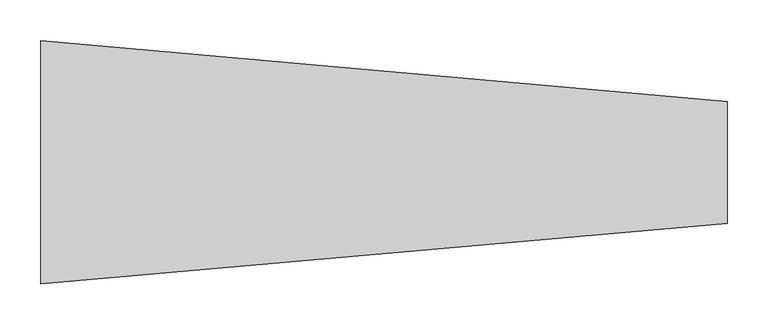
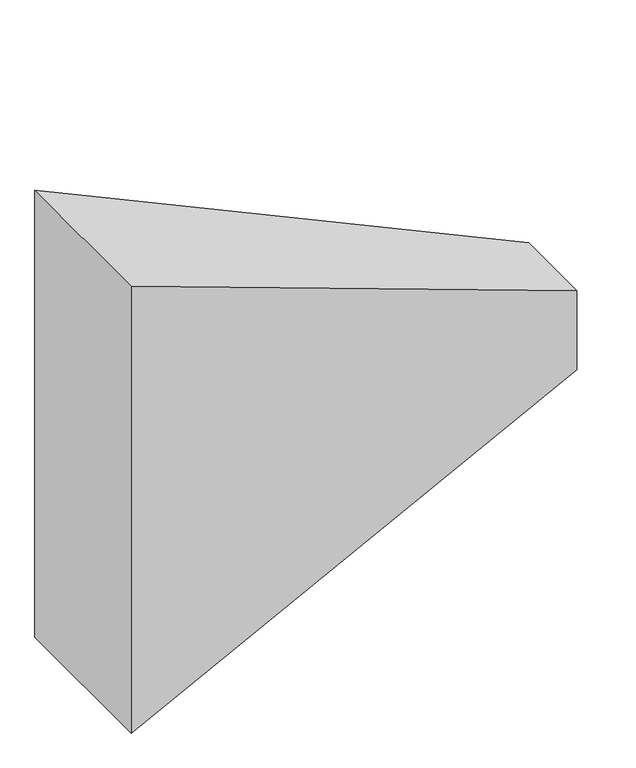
"""IFC4 building model written with IfcOpenShell, lengths in millimetres: duct fitting geometry, M_Transición rectangular - Ángulo : APT_45 graus."""

from ifc_helpers import new_model, si_unit, origin, place, context, project, spatial, faceted_brep, source, transform, mapped, element, save


def duct_fitting_92a4cfa6(model_context):
    return source(origin(), model_context, "Body", "Brep", [
        faceted_brep([(844.9747468, -75.0, 75.0), (844.9747468, -75.0, -75.0), (844.9747468, 75.0, -75.0), (844.9747468, 75.0, 75.0), (0.0, -150.0, 425.0), (0.0, 150.0, 425.0), (0.0, 150.0, -425.0), (0.0, -150.0, -425.0)], [[[0, 1, 2, 3]], [[4, 5, 6, 7]], [[4, 7, 1, 0]], [[7, 6, 2, 1]], [[6, 5, 3, 2]], [[5, 4, 0, 3]]]),
    ])


if __name__ == "__main__":
    model = new_model("IFC4")
    model_context = context("Model", 3, world=origin())
    ifc_project = project(units=[si_unit("LENGTHUNIT", "METRE", prefix="MILLI")], contexts=[model_context])
    site = spatial("IfcSite", under=ifc_project)
    building = spatial("IfcBuilding", under=site)
    placement = place(None, origin())
    duct_fitting_shape = duct_fitting_92a4cfa6(model_context)
    element("IfcDuctFitting", 1, ObjectType="M_Transición rectangular - Ángulo : APT_45 graus", at=placement, inside=building, context=model_context, shape_type="MappedRepresentation", body=[
        mapped(duct_fitting_shape, transform((0.0, 0.0, 0.0), x_axis=(1.0, 0.0, 0.0), y_axis=(0.0, 1.0, 0.0), z_axis=(0.0, 0.0, 1.0))),
    ])
    save(model, "model.ifc")
